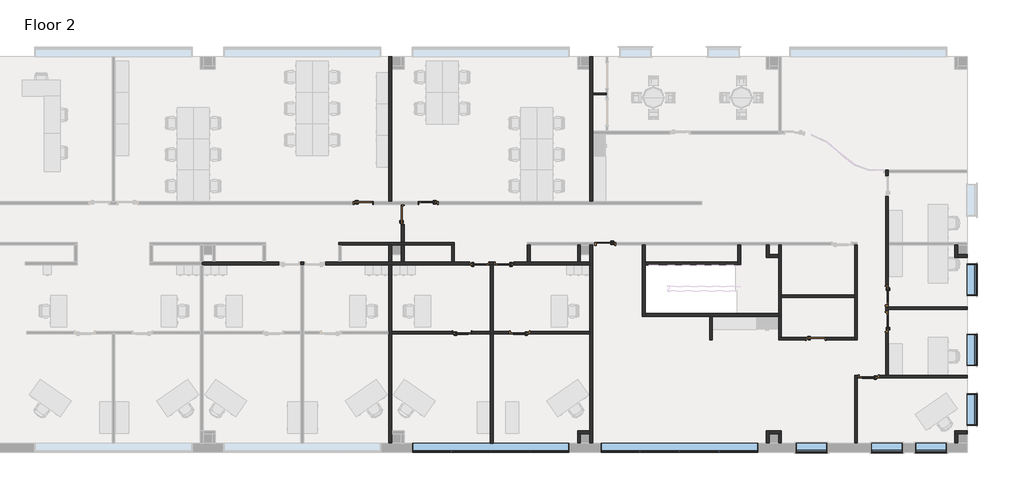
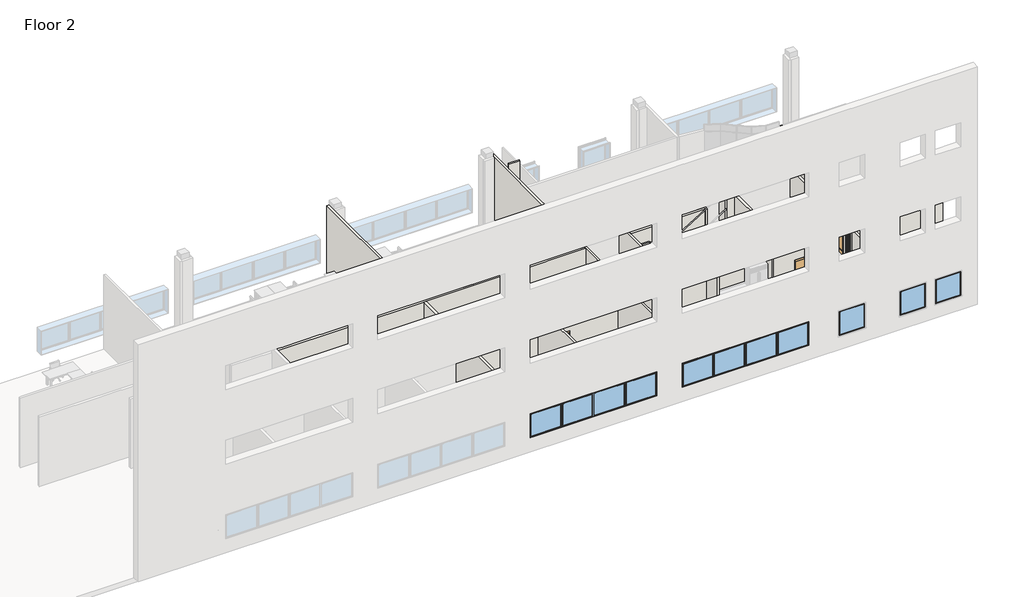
# One storey, part 3 of 6: 41 walls, 12 doors, 8 windows.
"""IFC4 building model written with IfcOpenShell, lengths in millimetres."""

from ifc_helpers import new_model, si_unit, frame, origin, place, context, project, spatial, polyline, outline, extrude, faceted_brep, transform, mapped, element, save
from components import door_36f17018, door_a46f4f49, door_a8315dbd, door_4cfbdd5f, door_4a7c4c71, door_b5f71497, door_dac99271, window_casement_multi_sash_horizontal_25_x_5ft_0e5d08e3, window_45f0c9e0

model = new_model("IFC4")

# Units and contexts
model_context = context("Model", 3, world=origin())
ifc_project = project(units=[si_unit("LENGTHUNIT", "METRE", prefix="MILLI")], contexts=[model_context])

# Site, building, storey
site = spatial("IfcSite", under=ifc_project)
building = spatial("IfcBuilding", under=site)
storey = spatial("IfcBuildingStorey", under=building, Name="Floor 2", Elevation=5486.4)

# Doors
placement = place(None, origin())
door_shape = door_36f17018(model_context)
element("IfcDoor", 1, ObjectType="Door-Passage-Single-Flush : 36\" x 84\"", at=placement, inside=storey, context=model_context, shape_type="MappedRepresentation", body=[
    mapped(door_shape, transform((43969.0192024, 48284.611889, 5486.4), x_axis=(-1.0, 0.0, 0.0), y_axis=(0.0, -1.0, 0.0), z_axis=(0.0, 0.0, 1.0))),
])
door_2_shape = door_a46f4f49(model_context)
element("IfcDoor", 2, ObjectType="Door-Passage-Single-Flush : 36\" x 84\"", at=placement, inside=storey, context=model_context, shape_type="MappedRepresentation", body=[
    mapped(door_2_shape, transform((32240.5692024, 50253.111889, 5486.4), x_axis=(1.0, 0.0, 0.0), y_axis=(0.0, 1.0, 0.0), z_axis=(0.0, 0.0, 1.0))),
])
element("IfcDoor", 3, ObjectType="Door-Passage-Single-Flush : 36\" x 84\"", at=placement, inside=storey, context=model_context, shape_type="MappedRepresentation", body=[
    mapped(door_2_shape, transform((34145.5692024, 49675.261889, 5486.4), x_axis=(0.0, 1.0, 0.0), y_axis=(-1.0, 0.0, 0.0), z_axis=(0.0, 0.0, 1.0))),
])
door_3_shape = door_a8315dbd(model_context)
element("IfcDoor", 4, ObjectType="Door-Passage-Single-Flush : 36\" x 84\"", at=placement, inside=storey, context=model_context, shape_type="MappedRepresentation", body=[
    mapped(door_3_shape, transform((54154.4192024, 43674.511889, 5486.4), x_axis=(1.0, 0.0, 0.0), y_axis=(0.0, 1.0, 0.0), z_axis=(0.0, 0.0, 1.0))),
])
door_4_shape = door_4cfbdd5f(model_context)
element("IfcDoor", 5, ObjectType="Door-Passage-Single-Full_Lite : 36\" x 84\"", at=placement, inside=storey, context=model_context, shape_type="MappedRepresentation", body=[
    mapped(door_4_shape, transform((35371.1192024, 50253.111889, 5486.4), x_axis=(-1.0, 0.0, 0.0), y_axis=(0.0, -1.0, 0.0), z_axis=(0.0, 0.0, 1.0))),
])
element("IfcDoor", 6, ObjectType="Door-Passage-Single-Full_Lite : 36\" x 84\"", at=placement, inside=storey, context=model_context, shape_type="MappedRepresentation", body=[
    mapped(door_4_shape, transform((37853.9692024, 47338.461889, 5486.4), x_axis=(1.0, 0.0, 0.0), y_axis=(0.0, 1.0, 0.0), z_axis=(0.0, 0.0, 1.0))),
])
element("IfcDoor", 7, ObjectType="Door-Passage-Single-Full_Lite : 36\" x 84\"", at=placement, inside=storey, context=model_context, shape_type="MappedRepresentation", body=[
    mapped(door_4_shape, transform((37015.7692024, 43985.661889, 5486.4), x_axis=(1.0, 0.0, 0.0), y_axis=(0.0, 1.0, 0.0), z_axis=(0.0, 0.0, 1.0))),
])
door_5_shape = door_4a7c4c71(model_context)
element("IfcDoor", 8, ObjectType="Door-Passage-Single-Full_Lite : 36\" x 84\"", at=placement, inside=storey, context=model_context, shape_type="MappedRepresentation", body=[
    mapped(door_5_shape, transform((39073.1692024, 47338.461889, 5486.4), x_axis=(-1.0, 0.0, 0.0), y_axis=(0.0, -1.0, 0.0), z_axis=(0.0, 0.0, 1.0))),
])
element("IfcDoor", 9, ObjectType="Door-Passage-Single-Full_Lite : 36\" x 84\"", at=placement, inside=storey, context=model_context, shape_type="MappedRepresentation", body=[
    mapped(door_5_shape, transform((39809.7692024, 43985.661889, 5486.4), x_axis=(-1.0, 0.0, 0.0), y_axis=(0.0, -1.0, 0.0), z_axis=(0.0, 0.0, 1.0))),
])
door_6_shape = door_b5f71497(model_context)
element("IfcDoor", 10, ObjectType="Door-Passage-Single-Full_Lite : 36\" x 84\"", at=placement, inside=storey, context=model_context, shape_type="MappedRepresentation", body=[
    mapped(door_6_shape, transform((57608.8192024, 44497.8952223, 5486.4), x_axis=(0.0, 1.0, 0.0), y_axis=(-1.0, 0.0, 0.0), z_axis=(0.0, 0.0, 1.0))),
])
door_7_shape = door_dac99271(model_context)
element("IfcDoor", 11, ObjectType="Door-Passage-Single-Full_Lite : 36\" x 84\"", at=placement, inside=storey, context=model_context, shape_type="MappedRepresentation", body=[
    mapped(door_7_shape, transform((57608.8192024, 45767.8952223, 5486.4), x_axis=(0.0, -1.0, 0.0), y_axis=(1.0, 0.0, 0.0), z_axis=(0.0, 0.0, 1.0))),
])
element("IfcDoor", 12, ObjectType="Door-Passage-Single-Full_Lite : 36\" x 84\"", at=placement, inside=storey, context=model_context, shape_type="MappedRepresentation", body=[
    mapped(door_7_shape, transform((56719.8192024, 41845.711889, 5486.4), x_axis=(-1.0, 0.0, 0.0), y_axis=(0.0, -1.0, 0.0), z_axis=(0.0, 0.0, 1.0))),
])

# Walls
element("IfcWall", 13, ObjectType="Interior - 3 1/8\" Partition (1-hr)", at=placement, inside=storey, context=model_context, shape_type="SweptSolid", body=[
    extrude(outline(polyline([(43353.0692024, 55595.843139), (44005.5317024, 55595.843139), (44005.5317024, 55516.468139), (43353.0692024, 55516.468139), (43353.0692024, 55595.843139)])), frame((0.0, 0.0, 5486.4), z_axis=(0.0, 0.0, 1.0), x_axis=(1.0, 0.0, 0.0)), (0.0, 0.0, 1.0), 4724.4),
])
element("IfcWall", 14, ObjectType="Interior - 4 7/8\" Partition (1-hr)", at=placement, inside=storey, context=model_context, shape_type="Brep", body=[
    faceted_brep([(56048.3067024, 41777.449389, 5486.4), (56172.1317024, 41777.449389, 5486.4), (56211.8192024, 41777.449389, 5486.4), (56211.8192024, 41777.449389, 7721.6), (57227.8192024, 41777.449389, 7721.6), (57227.8192024, 41777.449389, 5486.4), (61502.9567024, 41777.449389, 5486.4), (61502.9567024, 41777.449389, 9906.0), (56172.1317024, 41777.449389, 9906.0), (56048.3067024, 41777.449389, 9906.0), (56211.8192024, 41901.274389, 7721.6), (56211.8192024, 41901.274389, 5486.4), (56048.3067024, 41901.274389, 5486.4), (56048.3067024, 41901.274389, 9906.0), (57553.2567024, 41901.274389, 9906.0), (57677.0817024, 41901.274389, 9906.0), (61502.9567024, 41901.274389, 9906.0), (61502.9567024, 41901.274389, 5486.4), (57677.0817024, 41901.274389, 5486.4), (57553.2567024, 41901.274389, 5486.4), (57227.8192024, 41901.274389, 5486.4), (57227.8192024, 41901.274389, 7721.6)], [[[0, 1, 2, 3, 4, 5, 6, 7, 8, 9]], [[10, 11, 12, 13, 14, 15, 16, 17, 18, 19, 20, 21]], [[12, 11, 2, 1, 0]], [[20, 19, 18, 17, 6, 5]], [[16, 15, 14, 13, 9, 8, 7]], [[13, 12, 0, 9]], [[17, 16, 7, 6]], [[3, 2, 11, 10]], [[4, 3, 10, 21]], [[5, 4, 21, 20]]]),
])
element("IfcWall", 15, ObjectType="Interior - 4 7/8\" Partition (1-hr)", at=placement, inside=storey, context=model_context, shape_type="Brep", body=[
    faceted_brep([(57553.2567024, 45259.8952223, 5486.4), (57553.2567024, 45005.8952223, 5486.4), (57553.2567024, 45005.8952223, 7721.6), (57553.2567024, 43989.8952223, 7721.6), (57553.2567024, 43989.8952223, 5486.4), (57553.2567024, 41901.274389, 5486.4), (57553.2567024, 41901.274389, 9906.0), (57553.2567024, 51740.023538, 9906.0), (57553.2567024, 51858.074389, 9906.0), (57553.2567024, 51858.074389, 5486.4), (57553.2567024, 51740.023538, 5486.4), (57553.2567024, 51592.961889, 5486.4), (57553.2567024, 51592.961889, 7721.6), (57553.2567024, 50576.961889, 7721.6), (57553.2567024, 50576.961889, 5486.4), (57553.2567024, 46275.8952223, 5486.4), (57553.2567024, 46275.8952223, 7721.6), (57553.2567024, 45259.8952223, 7721.6), (57677.0817024, 45005.8952223, 7721.6), (57677.0817024, 45005.8952223, 5486.4), (57677.0817024, 45096.3827223, 5486.4), (57677.0817024, 45220.2077223, 5486.4), (57677.0817024, 45259.8952223, 5486.4), (57677.0817024, 45259.8952223, 7721.6), (57677.0817024, 46275.8952223, 7721.6), (57677.0817024, 46275.8952223, 5486.4), (57677.0817024, 48235.399389, 5486.4), (57677.0817024, 48359.224389, 5486.4), (57677.0817024, 50576.961889, 5486.4), (57677.0817024, 50576.961889, 7721.6), (57677.0817024, 51592.961889, 7721.6), (57677.0817024, 51592.961889, 5486.4), (57677.0817024, 51734.249389, 5486.4), (57677.0817024, 51858.074389, 5486.4), (57677.0817024, 51858.074389, 9906.0), (57677.0817024, 51734.249389, 9906.0), (57677.0817024, 48359.224389, 9906.0), (57677.0817024, 48235.399389, 9906.0), (57677.0817024, 45220.2077223, 9906.0), (57677.0817024, 45096.3827223, 9906.0), (57677.0817024, 41901.274389, 9906.0), (57677.0817024, 41901.274389, 5486.4), (57677.0817024, 43989.8952223, 5486.4), (57677.0817024, 43989.8952223, 7721.6), (57618.0176704, 51858.074389, 5486.4), (57618.0176704, 51858.074389, 9906.0)], [[[0, 1, 2, 3, 4, 5, 6, 7, 8, 9, 10, 11, 12, 13, 14, 15, 16, 17]], [[18, 19, 20, 21, 22, 23, 24, 25, 26, 27, 28, 29, 30, 31, 32, 33, 34, 35, 36, 37, 38, 39, 40, 41, 42, 43]], [[33, 32, 31, 11, 10, 9, 44]], [[22, 21, 20, 19, 1, 0]], [[15, 14, 28, 27, 26, 25]], [[42, 41, 5, 4]], [[41, 40, 6, 5]], [[34, 33, 44, 9, 8, 45]], [[40, 39, 38, 37, 36, 35, 34, 45, 8, 7, 6]], [[12, 11, 31, 30]], [[13, 12, 30, 29]], [[14, 13, 29, 28]], [[23, 22, 0, 17]], [[24, 23, 17, 16]], [[25, 24, 16, 15]], [[2, 1, 19, 18]], [[3, 2, 18, 43]], [[4, 3, 43, 42]]]),
])
element("IfcWall", 16, ObjectType="Interior - 4 7/8\" Partition (1-hr)", at=placement, inside=storey, context=model_context, shape_type="SweptSolid", body=[
    extrude(outline(polyline([(57677.0817024, 45220.2077223), (61502.9567024, 45220.2077223), (61502.9567024, 45096.3827223), (57677.0817024, 45096.3827223), (57677.0817024, 45220.2077223)])), frame((0.0, 0.0, 5486.4), z_axis=(0.0, 0.0, 1.0), x_axis=(1.0, 0.0, 0.0)), (0.0, 0.0, 1.0), 4419.6),
])
element("IfcWall", 17, ObjectType="Interior - 4 7/8\" Partition (1-hr)", at=placement, inside=storey, context=model_context, shape_type="Brep", body=[
    faceted_brep([(56048.3067024, 48221.111889, 5486.4), (56048.3067024, 45800.174389, 5486.4), (56048.3067024, 45676.349389, 5486.4), (56048.3067024, 43742.774389, 5486.4), (56048.3067024, 43618.949389, 5486.4), (56048.3067024, 43618.949389, 9906.0), (56048.3067024, 43742.774389, 9906.0), (56048.3067024, 45676.349389, 9906.0), (56048.3067024, 45800.174389, 9906.0), (56048.3067024, 48221.111889, 9906.0), (56172.1317024, 48221.111889, 5486.4), (56172.1317024, 48221.111889, 9906.0), (56172.1317024, 43618.949389, 9906.0), (56172.1317024, 43618.949389, 5486.4)], [[[0, 1, 2, 3, 4, 5, 6, 7, 8, 9]], [[10, 11, 12, 13]], [[4, 3, 2, 1, 0, 10, 13]], [[5, 4, 13, 12]], [[0, 9, 11, 10]], [[9, 8, 7, 6, 5, 12, 11]]]),
])
element("IfcWall", 18, ObjectType="Interior - 4 7/8\" Partition (1-hr)", at=placement, inside=storey, context=model_context, shape_type="Brep", body=[
    faceted_brep([(54662.4192024, 43618.949389, 7721.6), (54662.4192024, 43618.949389, 5486.4), (56048.3067024, 43618.949389, 5486.4), (56048.3067024, 43618.949389, 9906.0), (52371.6567024, 43618.949389, 9906.0), (52371.6567024, 43618.949389, 5486.4), (53646.4192024, 43618.949389, 5486.4), (53646.4192024, 43618.949389, 7721.6), (56048.3067024, 43742.774389, 5486.4), (54662.4192024, 43742.774389, 5486.4), (54662.4192024, 43742.774389, 7721.6), (53646.4192024, 43742.774389, 7721.6), (53646.4192024, 43742.774389, 5486.4), (52495.4817024, 43742.774389, 5486.4), (52371.6567024, 43742.774389, 5486.4), (52371.6567024, 43742.774389, 9906.0), (52495.4817024, 43742.774389, 9906.0), (56048.3067024, 43742.774389, 9906.0)], [[[0, 1, 2, 3, 4, 5, 6, 7]], [[8, 9, 10, 11, 12, 13, 14, 15, 16, 17]], [[2, 1, 9, 8]], [[6, 5, 14, 13, 12]], [[8, 17, 3, 2]], [[15, 14, 5, 4]], [[17, 16, 15, 4, 3]], [[10, 9, 1, 0]], [[11, 10, 0, 7]], [[12, 11, 7, 6]]]),
])
element("IfcWall", 19, ObjectType="Interior - 4 7/8\" Partition (1-hr)", at=placement, inside=storey, context=model_context, shape_type="SweptSolid", body=[
    extrude(outline(polyline([(52495.4817024, 44766.711889), (52495.4817024, 43742.774389), (52371.6567024, 43742.774389), (52371.6567024, 44766.711889), (52495.4817024, 44766.711889)])), frame((0.0, 0.0, 5486.4), z_axis=(0.0, 0.0, 1.0), x_axis=(1.0, 0.0, 0.0)), (0.0, 0.0, 1.0), 4419.6),
])
element("IfcWall", 20, ObjectType="Interior - 4 7/8\" Partition (1-hr)", at=placement, inside=storey, context=model_context, shape_type="SweptSolid", body=[
    extrude(outline(polyline([(49012.5067024, 43617.361889), (49012.5067024, 44766.711889), (49136.3317024, 44766.711889), (49136.3317024, 43617.361889), (49012.5067024, 43617.361889)])), frame((0.0, 0.0, 5486.4), z_axis=(0.0, 0.0, 1.0), x_axis=(1.0, 0.0, 0.0)), (0.0, 0.0, 1.0), 4419.6),
])
element("IfcWall", 21, ObjectType="Interior - 4 7/8\" Partition (1-hr)", at=placement, inside=storey, context=model_context, shape_type="SweptSolid", body=[
    extrude(outline(polyline([(52497.0692024, 45800.174389), (56048.3067024, 45800.174389), (56048.3067024, 45676.349389), (52497.0692024, 45676.349389), (52497.0692024, 45800.174389)])), frame((0.0, 0.0, 5486.4), z_axis=(0.0, 0.0, 1.0), x_axis=(1.0, 0.0, 0.0)), (0.0, 0.0, 1.0), 4419.6),
])
element("IfcWall", 22, ObjectType="Interior - 4 7/8\" Partition (1-hr)", at=placement, inside=storey, context=model_context, shape_type="SweptSolid", body=[
    extrude(outline(polyline([(56048.3067024, 38618.324389), (56048.3067024, 41777.449389), (56172.1317024, 41777.449389), (56172.1317024, 38618.324389), (56048.3067024, 38618.324389)])), frame((0.0, 0.0, 5486.4), z_axis=(0.0, 0.0, 1.0), x_axis=(1.0, 0.0, 0.0)), (0.0, 0.0, 1.0), 4419.6),
])
element("IfcWall", 23, ObjectType="Interior - 5 1/2\" Partition (1-hr)", at=placement, inside=storey, context=model_context, shape_type="Brep", body=[
    faceted_brep([(50382.5192024, 48221.111889, 5486.4), (50382.5192024, 47401.961889, 5486.4), (50382.5192024, 47262.261889, 5486.4), (50382.5192024, 47262.261889, 9906.0), (50382.5192024, 47401.961889, 9906.0), (50382.5192024, 48221.111889, 9906.0), (50522.2192024, 48221.111889, 5486.4), (50522.2192024, 48221.111889, 9906.0), (50522.2192024, 47262.261889, 9906.0), (50522.2192024, 47262.261889, 5486.4)], [[[0, 1, 2, 3, 4, 5]], [[6, 7, 8, 9]], [[2, 1, 0, 6, 9]], [[0, 5, 7, 6]], [[3, 2, 9, 8]], [[5, 4, 3, 8, 7]]]),
])
element("IfcWall", 24, ObjectType="Interior - 5 1/2\" Partition (1-hr)", at=placement, inside=storey, context=model_context, shape_type="Brep", body=[
    faceted_brep([(51760.4692024, 48221.111889, 5486.4), (51760.4692024, 47624.211889, 5486.4), (51760.4692024, 47624.211889, 9906.0), (51760.4692024, 48221.111889, 9906.0), (51900.1692024, 48221.111889, 5486.4), (51900.1692024, 48221.111889, 9906.0), (51900.1692024, 47763.911889, 9906.0), (51900.1692024, 47624.211889, 9906.0), (51900.1692024, 47624.211889, 5486.4), (51900.1692024, 47763.911889, 5486.4)], [[[0, 1, 2, 3]], [[4, 5, 6, 7, 8, 9]], [[1, 0, 4, 9, 8]], [[2, 1, 8, 7]], [[0, 3, 5, 4]], [[3, 2, 7, 6, 5]]]),
])
element("IfcWall", 25, ObjectType="Interior - 5 1/2\" Partition (1-hr)", at=placement, inside=storey, context=model_context, shape_type="SweptSolid", body=[
    extrude(outline(polyline([(51900.1692024, 47763.911889), (52357.3692024, 47763.911889), (52357.3692024, 47624.211889), (51900.1692024, 47624.211889), (51900.1692024, 47763.911889)])), frame((0.0, 0.0, 5486.4), z_axis=(0.0, 0.0, 1.0), x_axis=(1.0, 0.0, 0.0)), (0.0, 0.0, 1.0), 4419.6),
])
element("IfcWall", 26, ObjectType="Interior - 5 1/2\" Partition (1-hr)", at=placement, inside=storey, context=model_context, shape_type="Brep", body=[
    faceted_brep([(45759.7192024, 48221.111889, 5486.4), (45759.7192024, 44766.711889, 5486.4), (45759.7192024, 44766.711889, 9906.0), (45759.7192024, 48221.111889, 9906.0), (45899.4192024, 48221.111889, 5486.4), (45899.4192024, 48221.111889, 9906.0), (45899.4192024, 47401.961889, 9906.0), (45899.4192024, 47262.261889, 9906.0), (45899.4192024, 44906.411889, 9906.0), (45899.4192024, 44766.711889, 9906.0), (45899.4192024, 44766.711889, 5486.4), (45899.4192024, 44906.411889, 5486.4), (45899.4192024, 47262.261889, 5486.4), (45899.4192024, 47401.961889, 5486.4)], [[[0, 1, 2, 3]], [[4, 5, 6, 7, 8, 9, 10, 11, 12, 13]], [[1, 0, 4, 13, 12, 11, 10]], [[2, 1, 10, 9]], [[0, 3, 5, 4]], [[3, 2, 9, 8, 7, 6, 5]]]),
])
element("IfcWall", 27, ObjectType="Interior - 5 1/2\" Partition (1-hr)", at=placement, inside=storey, context=model_context, shape_type="Brep", body=[
    faceted_brep([(45899.4192024, 44766.711889, 5486.4), (49012.5067024, 44766.711889, 5486.4), (49136.3317024, 44766.711889, 5486.4), (52357.3692024, 44766.711889, 5486.4), (52357.3692024, 44766.711889, 9906.0), (49136.3317024, 44766.711889, 9906.0), (49012.5067024, 44766.711889, 9906.0), (45899.4192024, 44766.711889, 9906.0), (45899.4192024, 44906.411889, 5486.4), (45899.4192024, 44906.411889, 9906.0), (50327.5398084, 44906.411889, 9906.0), (52357.3692024, 44906.411889, 9906.0), (52357.3692024, 44906.411889, 5486.4)], [[[0, 1, 2, 3, 4, 5, 6, 7]], [[8, 9, 10, 11, 12]], [[3, 2, 1, 0, 8, 12]], [[0, 7, 9, 8]], [[4, 3, 12, 11]], [[7, 6, 5, 4, 11, 10, 9]]]),
])
element("IfcWall", 28, ObjectType="Interior - 5 1/2\" Partition (1-hr)", at=placement, inside=storey, context=model_context, shape_type="Brep", body=[
    faceted_brep([(45899.4192024, 47262.261889, 5486.4), (50382.5192024, 47262.261889, 5486.4), (50382.5192024, 47262.261889, 9906.0), (50269.50061, 47262.261889, 9906.0), (50253.8139908, 47262.261889, 9906.0), (45899.4192024, 47262.261889, 9906.0), (45899.4192024, 47401.961889, 5486.4), (45899.4192024, 47401.961889, 9906.0), (50382.5192024, 47401.961889, 9906.0), (50382.5192024, 47401.961889, 5486.4)], [[[0, 1, 2, 3, 4, 5]], [[6, 7, 8, 9]], [[1, 0, 6, 9]], [[2, 1, 9, 8]], [[0, 5, 7, 6]], [[5, 4, 3, 2, 8, 7]]]),
])
element("IfcWall", 29, ObjectType="Interior - 5 1/2\" Partition (1-hr)", at=placement, inside=storey, context=model_context, shape_type="Brep", body=[
    faceted_brep([(43213.3692024, 48221.111889, 5486.4), (43213.3692024, 47763.911889, 5486.4), (43213.3692024, 47401.961889, 5486.4), (43213.3692024, 47262.261889, 5486.4), (43213.3692024, 44049.161889, 5486.4), (43213.3692024, 43909.461889, 5486.4), (43213.3692024, 39216.811889, 5486.4), (43213.3692024, 39077.111889, 5486.4), (43213.3692024, 38619.911889, 5486.4), (43213.3692024, 38618.324389, 5486.4), (43213.3692024, 38618.324389, 9906.0), (43213.3692024, 39077.111889, 9906.0), (43213.3692024, 39216.811889, 9906.0), (43213.3692024, 43909.461889, 9906.0), (43213.3692024, 44049.161889, 9906.0), (43213.3692024, 47262.261889, 9906.0), (43213.3692024, 47401.961889, 9906.0), (43213.3692024, 48221.111889, 9906.0), (43353.0692024, 48221.111889, 5486.4), (43353.0692024, 48221.111889, 9906.0), (43353.0692024, 38618.324389, 9906.0), (43353.0692024, 38618.324389, 5486.4)], [[[0, 1, 2, 3, 4, 5, 6, 7, 8, 9, 10, 11, 12, 13, 14, 15, 16, 17]], [[18, 19, 20, 21]], [[9, 8, 7, 6, 5, 4, 3, 2, 1, 0, 18, 21]], [[10, 9, 21, 20]], [[0, 17, 19, 18]], [[17, 16, 15, 14, 13, 12, 11, 10, 20, 19]]]),
])
element("IfcWall", 30, ObjectType="Interior - 5 1/2\" Partition (1-hr)", at=placement, inside=storey, context=model_context, shape_type="Brep", body=[
    faceted_brep([(43213.3692024, 39216.811889, 5486.4), (42616.4692024, 39216.811889, 5486.4), (42616.4692024, 39216.811889, 9906.0), (43213.3692024, 39216.811889, 9906.0), (43213.3692024, 39077.111889, 5486.4), (43213.3692024, 39077.111889, 9906.0), (42756.1692024, 39077.111889, 9906.0), (42616.4692024, 39077.111889, 9906.0), (42616.4692024, 39077.111889, 5486.4), (42756.1692024, 39077.111889, 5486.4)], [[[0, 1, 2, 3]], [[4, 5, 6, 7, 8, 9]], [[1, 0, 4, 9, 8]], [[2, 1, 8, 7]], [[0, 3, 5, 4]], [[3, 2, 7, 6, 5]]]),
])
element("IfcWall", 31, ObjectType="Interior - 5 1/2\" Partition (1-hr)", at=placement, inside=storey, context=model_context, shape_type="Brep", body=[
    faceted_brep([(42616.4692024, 39077.111889, 5486.4), (42616.4692024, 38618.324389, 5486.4), (42616.4692024, 38618.324389, 9906.0), (42616.4692024, 39077.111889, 9906.0), (42756.1692024, 39077.111889, 5486.4), (42756.1692024, 39077.111889, 9906.0), (42756.1692024, 38618.324389, 9906.0), (42756.1692024, 38618.324389, 5486.4), (42756.1692024, 38619.911889, 5486.4)], [[[0, 1, 2, 3]], [[4, 5, 6, 7, 8]], [[1, 0, 4, 8, 7]], [[0, 3, 5, 4]], [[2, 1, 7, 6]], [[3, 2, 6, 5]]]),
])
element("IfcWall", 32, ObjectType="Interior - 5 1/2\" Partition (1-hr)", at=placement, inside=storey, context=model_context, shape_type="Brep", body=[
    faceted_brep([(43353.0692024, 50329.311889, 5486.4), (43353.0692024, 53620.199389, 5486.4), (43353.0692024, 53744.024389, 5486.4), (43353.0692024, 55516.468139, 5486.4), (43353.0692024, 55595.843139, 5486.4), (43353.0692024, 57366.699389, 5486.4), (43353.0692024, 57366.699389, 9906.0), (43353.0692024, 53744.024389, 9906.0), (43353.0692024, 53620.199389, 9906.0), (43353.0692024, 50329.311889, 9906.0), (43213.3692024, 50329.311889, 5486.4), (43213.3692024, 50329.311889, 9906.0), (43213.3692024, 56768.211889, 9906.0), (43213.3692024, 56907.911889, 9906.0), (43213.3692024, 57366.699389, 9906.0), (43213.3692024, 57366.699389, 5486.4), (43213.3692024, 57365.111889, 5486.4), (43213.3692024, 56907.911889, 5486.4), (43213.3692024, 56768.211889, 5486.4)], [[[0, 1, 2, 3, 4, 5, 6, 7, 8, 9]], [[10, 11, 12, 13, 14, 15, 16, 17, 18]], [[5, 4, 3, 2, 1, 0, 10, 18, 17, 16, 15]], [[6, 5, 15, 14]], [[0, 9, 11, 10]], [[9, 8, 7, 6, 14, 13, 12, 11]]]),
])
element("IfcWall", 33, ObjectType="Interior - 5 1/2\" Partition (1-hr)", at=placement, inside=storey, context=model_context, shape_type="Brep", body=[
    faceted_brep([(33472.4692024, 57366.699389, 5486.4), (33472.4692024, 50329.311889, 5486.4), (33472.4692024, 50329.311889, 9906.0), (33472.4692024, 57366.699389, 9906.0), (33612.1692024, 57366.699389, 5486.4), (33612.1692024, 57366.699389, 9906.0), (33612.1692024, 56907.911889, 9906.0), (33612.1692024, 56768.211889, 9906.0), (33612.1692024, 50329.311889, 9906.0), (33612.1692024, 50329.311889, 5486.4), (33612.1692024, 56768.211889, 5486.4), (33612.1692024, 56907.911889, 5486.4), (33612.1692024, 57365.111889, 5486.4)], [[[0, 1, 2, 3]], [[4, 5, 6, 7, 8, 9, 10, 11, 12]], [[1, 0, 4, 12, 11, 10, 9]], [[0, 3, 5, 4]], [[2, 1, 9, 8]], [[3, 2, 8, 7, 6, 5]]]),
])
element("IfcWall", 34, ObjectType="Interior - 5 1/2\" Partition (1-hr)", at=placement, inside=storey, context=model_context, shape_type="Brep", body=[
    faceted_brep([(24398.3192024, 47401.961889, 9906.0), (24398.3192024, 47401.961889, 5486.4), (24398.3192024, 47262.261889, 5486.4), (24398.3192024, 47262.261889, 9906.0), (29167.1692024, 47262.261889, 7721.6), (29167.1692024, 47262.261889, 5486.4), (29198.9192024, 47262.261889, 5486.4), (29338.6192024, 47262.261889, 5486.4), (29370.3692024, 47262.261889, 5486.4), (29370.3692024, 47262.261889, 7721.6), (30386.3692024, 47262.261889, 7721.6), (30386.3692024, 47262.261889, 5486.4), (33472.4692024, 47262.261889, 5486.4), (33612.1692024, 47262.261889, 5486.4), (37345.9692024, 47262.261889, 5486.4), (37345.9692024, 47262.261889, 7721.6), (38361.9692024, 47262.261889, 7721.6), (38361.9692024, 47262.261889, 5486.4), (38393.7192024, 47262.261889, 5486.4), (38533.4192024, 47262.261889, 5486.4), (38565.1692024, 47262.261889, 5486.4), (38565.1692024, 47262.261889, 7721.6), (39581.1692024, 47262.261889, 7721.6), (39581.1692024, 47262.261889, 5486.4), (43213.3692024, 47262.261889, 5486.4), (43213.3692024, 47262.261889, 9906.0), (38533.4192024, 47262.261889, 9906.0), (38393.7192024, 47262.261889, 9906.0), (33612.1692024, 47262.261889, 9906.0), (33472.4692024, 47262.261889, 9906.0), (24468.1692024, 47262.261889, 5486.4), (28151.1692024, 47262.261889, 5486.4), (28151.1692024, 47262.261889, 7721.6), (29370.3692024, 47401.961889, 5486.4), (29167.1692024, 47401.961889, 5486.4), (29167.1692024, 47401.961889, 7721.6), (28151.1692024, 47401.961889, 7721.6), (28151.1692024, 47401.961889, 5486.4), (27503.4692024, 47401.961889, 5486.4), (27363.7692024, 47401.961889, 5486.4), (25065.0692024, 47401.961889, 5486.4), (24925.3692024, 47401.961889, 5486.4), (24468.1692024, 47401.961889, 5486.4), (24468.1692024, 47401.961889, 9906.0), (24925.3692024, 47401.961889, 9906.0), (25065.0692024, 47401.961889, 9906.0), (27363.7692024, 47401.961889, 9906.0), (27503.4692024, 47401.961889, 9906.0), (31034.0692024, 47401.961889, 9906.0), (31173.7692024, 47401.961889, 9906.0), (33472.4692024, 47401.961889, 9906.0), (33612.1692024, 47401.961889, 9906.0), (34069.3692024, 47401.961889, 9906.0), (34209.0692024, 47401.961889, 9906.0), (36507.7692024, 47401.961889, 9906.0), (36647.4692024, 47401.961889, 9906.0), (40178.0692024, 47401.961889, 9906.0), (40317.7692024, 47401.961889, 9906.0), (42616.4692024, 47401.961889, 9906.0), (42756.1692024, 47401.961889, 9906.0), (43213.3692024, 47401.961889, 9906.0), (43213.3692024, 47401.961889, 5486.4), (42756.1692024, 47401.961889, 5486.4), (42616.4692024, 47401.961889, 5486.4), (40317.7692024, 47401.961889, 5486.4), (40178.0692024, 47401.961889, 5486.4), (39581.1692024, 47401.961889, 5486.4), (39581.1692024, 47401.961889, 7721.6), (38565.1692024, 47401.961889, 7721.6), (38565.1692024, 47401.961889, 5486.4), (38361.9692024, 47401.961889, 5486.4), (38361.9692024, 47401.961889, 7721.6), (37345.9692024, 47401.961889, 7721.6), (37345.9692024, 47401.961889, 5486.4), (36647.4692024, 47401.961889, 5486.4), (36507.7692024, 47401.961889, 5486.4), (34209.0692024, 47401.961889, 5486.4), (34069.3692024, 47401.961889, 5486.4), (33612.1692024, 47401.961889, 5486.4), (33472.4692024, 47401.961889, 5486.4), (31173.7692024, 47401.961889, 5486.4), (31034.0692024, 47401.961889, 5486.4), (30386.3692024, 47401.961889, 5486.4), (30386.3692024, 47401.961889, 7721.6), (29370.3692024, 47401.961889, 7721.6)], [[[0, 1, 2, 3]], [[4, 5, 6, 7, 8, 9, 10, 11, 12, 13, 14, 15, 16, 17, 18, 19, 20, 21, 22, 23, 24, 25, 26, 27, 28, 29, 3, 2, 30, 31, 32]], [[33, 34, 35, 36, 37, 38, 39, 40, 41, 42, 1, 0, 43, 44, 45, 46, 47, 48, 49, 50, 51, 52, 53, 54, 55, 56, 57, 58, 59, 60, 61, 62, 63, 64, 65, 66, 67, 68, 69, 70, 71, 72, 73, 74, 75, 76, 77, 78, 79, 80, 81, 82, 83, 84]], [[70, 69, 20, 19, 18, 17]], [[8, 7, 6, 5, 34, 33]], [[66, 65, 64, 63, 62, 61, 24, 23]], [[82, 81, 80, 79, 78, 77, 76, 75, 74, 73, 14, 13, 12, 11]], [[31, 30, 2, 1, 42, 41, 40, 39, 38, 37]], [[61, 60, 25, 24]], [[60, 59, 58, 57, 56, 55, 54, 53, 52, 51, 50, 49, 48, 47, 46, 45, 44, 43, 0, 3, 29, 28, 27, 26, 25]], [[71, 70, 17, 16]], [[72, 71, 16, 15]], [[73, 72, 15, 14]], [[21, 20, 69, 68]], [[22, 21, 68, 67]], [[23, 22, 67, 66]], [[9, 8, 33, 84]], [[10, 9, 84, 83]], [[11, 10, 83, 82]], [[35, 34, 5, 4]], [[36, 35, 4, 32]], [[37, 36, 32, 31]]]),
])
element("IfcWall", 35, ObjectType="Interior - 5 1/2\" Partition (1-hr)", at=placement, inside=storey, context=model_context, shape_type="Brep", body=[
    faceted_brep([(42756.1692024, 47401.961889, 5486.4), (42756.1692024, 47763.911889, 5486.4), (42756.1692024, 48221.111889, 5486.4), (42756.1692024, 48221.111889, 9906.0), (42756.1692024, 47401.961889, 9906.0), (42616.4692024, 47401.961889, 5486.4), (42616.4692024, 47401.961889, 9906.0), (42616.4692024, 48221.111889, 9906.0), (42616.4692024, 48221.111889, 5486.4)], [[[0, 1, 2, 3, 4]], [[5, 6, 7, 8]], [[2, 1, 0, 5, 8]], [[0, 4, 6, 5]], [[3, 2, 8, 7]], [[4, 3, 7, 6]]]),
])
element("IfcWall", 36, ObjectType="Interior - 5 1/2\" Partition (1-hr)", at=placement, inside=storey, context=model_context, shape_type="Brep", body=[
    faceted_brep([(34209.0692024, 47401.961889, 5486.4), (34209.0692024, 48221.111889, 5486.4), (34209.0692024, 48221.111889, 9906.0), (34209.0692024, 47401.961889, 9906.0), (34069.3692024, 47401.961889, 5486.4), (34069.3692024, 47401.961889, 9906.0), (34069.3692024, 48221.111889, 9906.0), (34069.3692024, 48221.111889, 5486.4), (34069.3692024, 47763.911889, 5486.4)], [[[0, 1, 2, 3]], [[4, 5, 6, 7, 8]], [[1, 0, 4, 8, 7]], [[0, 3, 5, 4]], [[2, 1, 7, 6]], [[3, 2, 6, 5]]]),
])
element("IfcWall", 37, ObjectType="Interior - 5 1/2\" Partition (1-hr)", at=placement, inside=storey, context=model_context, shape_type="Brep", body=[
    faceted_brep([(33612.1692024, 47401.961889, 5486.4), (33612.1692024, 47763.911889, 5486.4), (33612.1692024, 48221.111889, 5486.4), (33612.1692024, 48221.111889, 9906.0), (33612.1692024, 47401.961889, 9906.0), (33472.4692024, 47401.961889, 5486.4), (33472.4692024, 47401.961889, 9906.0), (33472.4692024, 48221.111889, 9906.0), (33472.4692024, 48221.111889, 5486.4)], [[[0, 1, 2, 3, 4]], [[5, 6, 7, 8]], [[2, 1, 0, 5, 8]], [[0, 4, 6, 5]], [[3, 2, 8, 7]], [[4, 3, 7, 6]]]),
])
element("IfcWall", 38, ObjectType="Interior - 5 1/2\" Partition (1-hr)", at=placement, inside=storey, context=model_context, shape_type="SweptSolid", body=[
    extrude(outline(polyline([(36647.4692024, 48221.111889), (36647.4692024, 47401.961889), (36507.7692024, 47401.961889), (36507.7692024, 48221.111889), (36647.4692024, 48221.111889)])), frame((0.0, 0.0, 5486.4), z_axis=(0.0, 0.0, 1.0), x_axis=(1.0, 0.0, 0.0)), (0.0, 0.0, 1.0), 4419.6),
])
element("IfcWall", 39, ObjectType="Interior - 5 1/2\" Partition (1-hr)", at=placement, inside=storey, context=model_context, shape_type="SweptSolid", body=[
    extrude(outline(polyline([(40317.7692024, 48221.111889), (40317.7692024, 47401.961889), (40178.0692024, 47401.961889), (40178.0692024, 48221.111889), (40317.7692024, 48221.111889)])), frame((0.0, 0.0, 5486.4), z_axis=(0.0, 0.0, 1.0), x_axis=(1.0, 0.0, 0.0)), (0.0, 0.0, 1.0), 4419.6),
])
element("IfcWall", 40, ObjectType="Interior - 5 1/2\" Partition (1-hr)", at=placement, inside=storey, context=model_context, shape_type="Brep", body=[
    faceted_brep([(33472.4692024, 47262.261889, 5486.4), (33472.4692024, 44049.161889, 5486.4), (33472.4692024, 43909.461889, 5486.4), (33472.4692024, 38618.324389, 5486.4), (33472.4692024, 38618.324389, 9906.0), (33472.4692024, 47262.261889, 9906.0), (33612.1692024, 47262.261889, 5486.4), (33612.1692024, 47262.261889, 9906.0), (33612.1692024, 44049.161889, 9906.0), (33612.1692024, 43909.461889, 9906.0), (33612.1692024, 39216.811889, 9906.0), (33612.1692024, 39077.111889, 9906.0), (33612.1692024, 38618.324389, 9906.0), (33612.1692024, 38618.324389, 5486.4), (33612.1692024, 38619.911889, 5486.4), (33612.1692024, 39077.111889, 5486.4), (33612.1692024, 39216.811889, 5486.4), (33612.1692024, 43909.461889, 5486.4), (33612.1692024, 44049.161889, 5486.4)], [[[0, 1, 2, 3, 4, 5]], [[6, 7, 8, 9, 10, 11, 12, 13, 14, 15, 16, 17, 18]], [[3, 2, 1, 0, 6, 18, 17, 16, 15, 14, 13]], [[0, 5, 7, 6]], [[4, 3, 13, 12]], [[5, 4, 12, 11, 10, 9, 8, 7]]]),
])
element("IfcWall", 41, ObjectType="Interior - 5 1/2\" Partition (1-hr)", at=placement, inside=storey, context=model_context, shape_type="Brep", body=[
    faceted_brep([(51900.1692024, 38618.324389, 5486.4), (51900.1692024, 38619.911889, 5486.4), (51900.1692024, 39077.111889, 5486.4), (51900.1692024, 39216.811889, 5486.4), (51900.1692024, 39216.811889, 9906.0), (51900.1692024, 39077.111889, 9906.0), (51900.1692024, 38618.324389, 9906.0), (51760.4692024, 38618.324389, 5486.4), (51760.4692024, 38618.324389, 9906.0), (51760.4692024, 39216.811889, 9906.0), (51760.4692024, 39216.811889, 5486.4)], [[[0, 1, 2, 3, 4, 5, 6]], [[7, 8, 9, 10]], [[3, 2, 1, 0, 7, 10]], [[4, 3, 10, 9]], [[0, 6, 8, 7]], [[6, 5, 4, 9, 8]]]),
])
element("IfcWall", 42, ObjectType="Interior - 5 1/2\" Partition (1-hr)", at=placement, inside=storey, context=model_context, shape_type="Brep", body=[
    faceted_brep([(51900.1692024, 39077.111889, 5486.4), (52357.3692024, 39077.111889, 5486.4), (52497.0692024, 39077.111889, 5486.4), (52497.0692024, 39077.111889, 9906.0), (52357.3692024, 39077.111889, 9906.0), (51900.1692024, 39077.111889, 9906.0), (51900.1692024, 39216.811889, 5486.4), (51900.1692024, 39216.811889, 9906.0), (52497.0692024, 39216.811889, 9906.0), (52497.0692024, 39216.811889, 5486.4)], [[[0, 1, 2, 3, 4, 5]], [[6, 7, 8, 9]], [[2, 1, 0, 6, 9]], [[3, 2, 9, 8]], [[0, 5, 7, 6]], [[5, 4, 3, 8, 7]]]),
])
element("IfcWall", 43, ObjectType="Interior - 5 1/2\" Partition (1-hr)", at=placement, inside=storey, context=model_context, shape_type="Brep", body=[
    faceted_brep([(52357.3692024, 39077.111889, 5486.4), (52357.3692024, 38619.911889, 5486.4), (52357.3692024, 38618.324389, 5486.4), (52357.3692024, 38618.324389, 9906.0), (52357.3692024, 39077.111889, 9906.0), (52497.0692024, 39077.111889, 5486.4), (52497.0692024, 39077.111889, 9906.0), (52497.0692024, 38618.324389, 9906.0), (52497.0692024, 38618.324389, 5486.4)], [[[0, 1, 2, 3, 4]], [[5, 6, 7, 8]], [[2, 1, 0, 5, 8]], [[0, 4, 6, 5]], [[3, 2, 8, 7]], [[4, 3, 7, 6]]]),
])
element("IfcWall", 44, ObjectType="Interior - 5 1/2\" Partition (1-hr)", at=placement, inside=storey, context=model_context, shape_type="Brep", body=[
    faceted_brep([(61502.9567024, 39216.811889, 5486.4), (60904.4692024, 39216.811889, 5486.4), (60904.4692024, 39216.811889, 9906.0), (61502.9567024, 39216.811889, 9906.0), (61502.9567024, 39077.111889, 5486.4), (61502.9567024, 39077.111889, 9906.0), (61044.1692024, 39077.111889, 9906.0), (60904.4692024, 39077.111889, 9906.0), (60904.4692024, 39077.111889, 5486.4), (61044.1692024, 39077.111889, 5486.4), (61501.3692024, 39077.111889, 5486.4)], [[[0, 1, 2, 3]], [[4, 5, 6, 7, 8, 9, 10]], [[1, 0, 4, 10, 9, 8]], [[2, 1, 8, 7]], [[0, 3, 5, 4]], [[3, 2, 7, 6, 5]]]),
])
element("IfcWall", 45, ObjectType="Interior - 5 1/2\" Partition (1-hr)", at=placement, inside=storey, context=model_context, shape_type="Brep", body=[
    faceted_brep([(60904.4692024, 39077.111889, 5486.4), (60904.4692024, 38618.324389, 5486.4), (60904.4692024, 38618.324389, 9906.0), (60904.4692024, 39077.111889, 9906.0), (61044.1692024, 39077.111889, 5486.4), (61044.1692024, 39077.111889, 9906.0), (61044.1692024, 38618.324389, 9906.0), (61044.1692024, 38618.324389, 5486.4), (61044.1692024, 38619.911889, 5486.4)], [[[0, 1, 2, 3]], [[4, 5, 6, 7, 8]], [[1, 0, 4, 8, 7]], [[0, 3, 5, 4]], [[2, 1, 7, 6]], [[3, 2, 6, 5]]]),
])
element("IfcWall", 46, ObjectType="Interior - 5 1/2\" Partition (1-hr)", at=placement, inside=storey, context=model_context, shape_type="Brep", body=[
    faceted_brep([(60904.4692024, 48221.111889, 5486.4), (60904.4692024, 47624.211889, 5486.4), (60904.4692024, 47624.211889, 9906.0), (60904.4692024, 48221.111889, 9906.0), (61044.1692024, 48221.111889, 5486.4), (61044.1692024, 48221.111889, 9906.0), (61044.1692024, 47763.911889, 9906.0), (61044.1692024, 47624.211889, 9906.0), (61044.1692024, 47624.211889, 5486.4), (61044.1692024, 47763.911889, 5486.4)], [[[0, 1, 2, 3]], [[4, 5, 6, 7, 8, 9]], [[1, 0, 4, 9, 8]], [[2, 1, 8, 7]], [[0, 3, 5, 4]], [[3, 2, 7, 6, 5]]]),
])
element("IfcWall", 47, ObjectType="Interior - 5 1/2\" Partition (1-hr)", at=placement, inside=storey, context=model_context, shape_type="Brep", body=[
    faceted_brep([(61044.1692024, 47624.211889, 5486.4), (61502.9567024, 47624.211889, 5486.4), (61502.9567024, 47624.211889, 9906.0), (61044.1692024, 47624.211889, 9906.0), (61044.1692024, 47763.911889, 5486.4), (61044.1692024, 47763.911889, 9906.0), (61502.9567024, 47763.911889, 9906.0), (61502.9567024, 47763.911889, 5486.4), (61501.3692024, 47763.911889, 5486.4)], [[[0, 1, 2, 3]], [[4, 5, 6, 7, 8]], [[1, 0, 4, 8, 7]], [[0, 3, 5, 4]], [[2, 1, 7, 6]], [[3, 2, 6, 5]]]),
])
element("IfcWall", 48, ObjectType="Interior - 5 1/2\" Partition (1-hr)", at=placement, inside=storey, context=model_context, shape_type="Brep", body=[
    faceted_brep([(38393.7192024, 47262.261889, 5486.4), (38393.7192024, 44049.161889, 5486.4), (38393.7192024, 43909.461889, 5486.4), (38393.7192024, 38618.324389, 5486.4), (38393.7192024, 38618.324389, 9906.0), (38393.7192024, 43909.461889, 9906.0), (38393.7192024, 44049.161889, 9906.0), (38393.7192024, 47262.261889, 9906.0), (38533.4192024, 47262.261889, 5486.4), (38533.4192024, 47262.261889, 9906.0), (38533.4192024, 44049.161889, 9906.0), (38533.4192024, 43909.461889, 9906.0), (38533.4192024, 38618.324389, 9906.0), (38533.4192024, 38618.324389, 5486.4), (38533.4192024, 43909.461889, 5486.4), (38533.4192024, 44049.161889, 5486.4)], [[[0, 1, 2, 3, 4, 5, 6, 7]], [[8, 9, 10, 11, 12, 13, 14, 15]], [[3, 2, 1, 0, 8, 15, 14, 13]], [[0, 7, 9, 8]], [[4, 3, 13, 12]], [[7, 6, 5, 4, 12, 11, 10, 9]]]),
])
element("IfcWall", 49, ObjectType="Interior - 5 1/2\" Partition (1-hr)", at=placement, inside=storey, context=model_context, shape_type="SweptSolid", body=[
    extrude(outline(polyline([(7721.6, 37523.7692024), (5486.4, 37523.7692024), (5486.4, 38393.7192024), (9906.0, 38393.7192024), (9906.0, 33612.1692024), (5486.4, 33612.1692024), (5486.4, 36507.7692024), (7721.6, 36507.7692024), (7721.6, 37523.7692024)])), frame((0.0, 43909.461889, 0.0), z_axis=(0.0, 1.0, 0.0), x_axis=(0.0, 0.0, 1.0)), (0.0, 0.0, 1.0), 139.7),
])
element("IfcWall", 50, ObjectType="Interior - 5 1/2\" Partition (1-hr)", at=placement, inside=storey, context=model_context, shape_type="SweptSolid", body=[
    extrude(outline(polyline([(5486.4, 38533.4192024), (5486.4, 39301.7692024), (7721.6, 39301.7692024), (7721.6, 40317.7692024), (5486.4, 40317.7692024), (5486.4, 43213.3692024), (9906.0, 43213.3692024), (9906.0, 38533.4192024), (5486.4, 38533.4192024)])), frame((0.0, 43909.461889, 0.0), z_axis=(0.0, 1.0, 0.0), x_axis=(0.0, 0.0, 1.0)), (0.0, 0.0, 1.0), 139.7),
])
element("IfcWall", 51, ObjectType="Interior - 5 1/2\" Partition (1-hr)", at=placement, inside=storey, context=model_context, shape_type="Brep", body=[
    faceted_brep([(31034.0692024, 48221.111889, 5486.4), (31173.7692024, 48221.111889, 5486.4), (33472.4692024, 48221.111889, 5486.4), (33612.1692024, 48221.111889, 5486.4), (34069.3692024, 48221.111889, 5486.4), (34209.0692024, 48221.111889, 5486.4), (36507.7692024, 48221.111889, 5486.4), (36647.4692024, 48221.111889, 5486.4), (36647.4692024, 48221.111889, 9906.0), (36507.7692024, 48221.111889, 9906.0), (34209.0692024, 48221.111889, 9906.0), (34069.3692024, 48221.111889, 9906.0), (33612.1692024, 48221.111889, 9906.0), (33472.4692024, 48221.111889, 9906.0), (31173.7692024, 48221.111889, 9906.0), (31034.0692024, 48221.111889, 9906.0), (31034.0692024, 48360.811889, 5486.4), (31034.0692024, 48360.811889, 9906.0), (34069.3692024, 48360.811889, 9906.0), (34209.0692024, 48360.811889, 9906.0), (36647.4692024, 48360.811889, 9906.0), (36647.4692024, 48360.811889, 5486.4), (34209.0692024, 48360.811889, 5486.4), (34069.3692024, 48360.811889, 5486.4)], [[[0, 1, 2, 3, 4, 5, 6, 7, 8, 9, 10, 11, 12, 13, 14, 15]], [[16, 17, 18, 19, 20, 21, 22, 23]], [[7, 6, 5, 4, 3, 2, 1, 0, 16, 23, 22, 21]], [[0, 15, 17, 16]], [[8, 7, 21, 20]], [[15, 14, 13, 12, 11, 10, 9, 8, 20, 19, 18, 17]]]),
])
element("IfcWall", 52, ObjectType="Interior - 5 1/2\" Partition (1-hr)", at=placement, inside=storey, context=model_context, shape_type="Brep", body=[
    faceted_brep([(52357.3692024, 48221.111889, 5486.4), (52357.3692024, 47763.911889, 5486.4), (52357.3692024, 47624.211889, 5486.4), (52357.3692024, 44906.411889, 5486.4), (52357.3692024, 44766.711889, 5486.4), (52357.3692024, 44766.711889, 9906.0), (52357.3692024, 44906.411889, 9906.0), (52357.3692024, 47624.211889, 9906.0), (52357.3692024, 47763.911889, 9906.0), (52357.3692024, 48221.111889, 9906.0), (52497.0692024, 48221.111889, 5486.4), (52497.0692024, 48221.111889, 9906.0), (52497.0692024, 45800.174389, 9906.0), (52497.0692024, 45676.349389, 9906.0), (52497.0692024, 44766.711889, 9906.0), (52497.0692024, 44766.711889, 5486.4), (52497.0692024, 45676.349389, 5486.4), (52497.0692024, 45800.174389, 5486.4), (52495.4817024, 44766.711889, 5486.4), (52371.6567024, 44766.711889, 5486.4), (52495.4817024, 44766.711889, 9906.0), (52371.6567024, 44766.711889, 9906.0)], [[[0, 1, 2, 3, 4, 5, 6, 7, 8, 9]], [[10, 11, 12, 13, 14, 15, 16, 17]], [[4, 3, 2, 1, 0, 10, 17, 16, 15, 18, 19]], [[5, 4, 19, 18, 15, 14, 20, 21]], [[0, 9, 11, 10]], [[9, 8, 7, 6, 5, 21, 20, 14, 13, 12, 11]]]),
])
element("IfcWall", 53, ObjectType="Interior - 5 1/2\" Partition (1-hr)", at=placement, inside=storey, context=model_context, shape_type="SweptSolid", body=[
    extrude(outline(polyline([(48360.811889, 9906.0), (50189.611889, 9906.0), (50189.611889, 5486.4), (50183.261889, 5486.4), (50183.261889, 7721.6), (49167.261889, 7721.6), (49167.261889, 5486.4), (48360.811889, 5486.4), (48360.811889, 9906.0)])), frame((34069.3692024, 0.0, 0.0), z_axis=(1.0, 0.0, 0.0), x_axis=(0.0, 1.0, 0.0)), (0.0, 0.0, 1.0), 139.7),
])

# Windows
window_casement_multi_sash_horizontal_25_x_5ft_shape = window_casement_multi_sash_horizontal_25_x_5ft_0e5d08e3(model_context)
element("IfcWindow", 54, ObjectType="Window-Casement-Multi-Sash-Horizontal : 25 x 5ft", at=placement, inside=storey, context=model_context, shape_type="MappedRepresentation", body=[
    mapped(window_casement_multi_sash_horizontal_25_x_5ft_shape, transform((38412.7692024, 38391.311889, 5486.4), x_axis=(-1.0, 0.0, 0.0), y_axis=(0.0, -1.0, 0.0), z_axis=(0.0, 0.0, 1.0))),
])
element("IfcWindow", 55, ObjectType="Window-Casement-Multi-Sash-Horizontal : 25 x 5ft", at=placement, inside=storey, context=model_context, shape_type="MappedRepresentation", body=[
    mapped(window_casement_multi_sash_horizontal_25_x_5ft_shape, transform((47556.7692024, 38391.311889, 5486.4), x_axis=(-1.0, 0.0, 0.0), y_axis=(0.0, -1.0, 0.0), z_axis=(0.0, 0.0, 1.0))),
])
window_shape = window_45f0c9e0(model_context)
element("IfcWindow", 56, ObjectType="Window-Fixed : 60\" x 60\"", at=placement, inside=storey, context=model_context, shape_type="MappedRepresentation", body=[
    mapped(window_shape, transform((61729.9692024, 40245.511889, 5486.4), x_axis=(0.0, -1.0, 0.0), y_axis=(1.0, 0.0, 0.0), z_axis=(0.0, 0.0, 1.0))),
])
element("IfcWindow", 57, ObjectType="Window-Fixed : 60\" x 60\"", at=placement, inside=storey, context=model_context, shape_type="MappedRepresentation", body=[
    mapped(window_shape, transform((61729.9692024, 43141.111889, 5486.4), x_axis=(0.0, -1.0, 0.0), y_axis=(1.0, 0.0, 0.0), z_axis=(0.0, 0.0, 1.0))),
])
element("IfcWindow", 58, ObjectType="Window-Fixed : 60\" x 60\"", at=placement, inside=storey, context=model_context, shape_type="MappedRepresentation", body=[
    mapped(window_shape, transform((61729.9692024, 46544.711889, 5486.4), x_axis=(0.0, -1.0, 0.0), y_axis=(1.0, 0.0, 0.0), z_axis=(0.0, 0.0, 1.0))),
])
element("IfcWindow", 59, ObjectType="Window-Fixed : 60\" x 60\"", at=placement, inside=storey, context=model_context, shape_type="MappedRepresentation", body=[
    mapped(window_shape, transform((53951.2192024, 38391.311889, 5486.4), x_axis=(-1.0, 0.0, 0.0), y_axis=(0.0, -1.0, 0.0), z_axis=(0.0, 0.0, 1.0))),
])
element("IfcWindow", 60, ObjectType="Window-Fixed : 60\" x 60\"", at=placement, inside=storey, context=model_context, shape_type="MappedRepresentation", body=[
    mapped(window_shape, transform((57608.8192024, 38391.311889, 5486.4), x_axis=(-1.0, 0.0, 0.0), y_axis=(0.0, -1.0, 0.0), z_axis=(0.0, 0.0, 1.0))),
])
element("IfcWindow", 61, ObjectType="Window-Fixed : 60\" x 60\"", at=placement, inside=storey, context=model_context, shape_type="MappedRepresentation", body=[
    mapped(window_shape, transform((59742.4192024, 38391.311889, 5486.4), x_axis=(-1.0, 0.0, 0.0), y_axis=(0.0, -1.0, 0.0), z_axis=(0.0, 0.0, 1.0))),
])

save(model, "model.ifc")
